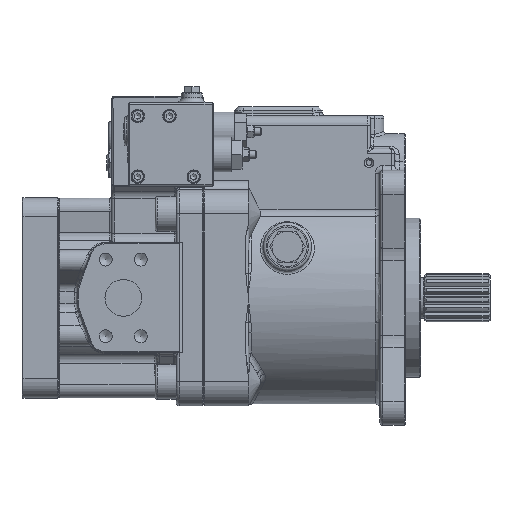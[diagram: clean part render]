
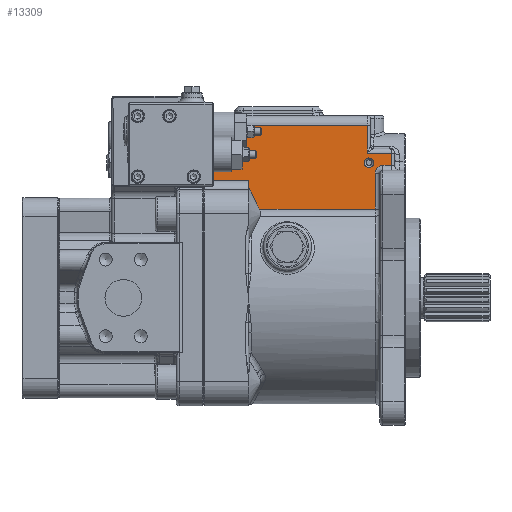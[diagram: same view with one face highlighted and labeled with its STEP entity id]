
A CAD part, left-side view. The second image highlights one B-rep face of the part: STEP entity #13309.
In plain terms, the highlighted planar face has unit normal (-1, 0, 0).
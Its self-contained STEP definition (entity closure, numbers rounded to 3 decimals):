
#10352=CARTESIAN_POINT('',(-67.0,211.0,122.0));
#10353=VERTEX_POINT('',#10352);
#10378=CARTESIAN_POINT('',(-67.0,165.0,122.0));
#10379=VERTEX_POINT('',#10378);
#10387=CARTESIAN_POINT('',(-67.0,211.0,122.0));
#10388=DIRECTION('',(0.0,-1.0,0.0));
#10389=VECTOR('',#10388,46.0);
#10390=LINE('',#10387,#10389);
#10391=EDGE_CURVE('',#10353,#10379,#10390,.T.);
#10465=CARTESIAN_POINT('',(-67.0,165.0,114.));
#10466=VERTEX_POINT('',#10465);
#10473=CARTESIAN_POINT('',(-67.0,165.0,114.));
#10474=DIRECTION('',(0.0,0.0,1.0));
#10475=VECTOR('',#10474,8.);
#10476=LINE('',#10473,#10475);
#10477=EDGE_CURVE('',#10466,#10379,#10476,.T.);
#11091=CARTESIAN_POINT('',(-67.,34.,92.038));
#11092=VERTEX_POINT('',#11091);
#11102=CARTESIAN_POINT('',(-67.,154.426,92.038));
#11103=VERTEX_POINT('',#11102);
#11104=CARTESIAN_POINT('',(-67.,154.426,92.038));
#11105=DIRECTION('',(0.0,-1.0,0.0));
#11106=VECTOR('',#11105,120.426);
#11107=LINE('',#11104,#11106);
#11108=EDGE_CURVE('',#11103,#11092,#11107,.T.);
#11701=CARTESIAN_POINT('',(-67.,211.0,179.0));
#11702=VERTEX_POINT('',#11701);
#11703=CARTESIAN_POINT('',(-67.0,211.0,122.0));
#11704=DIRECTION('',(0.0,0.0,1.0));
#11705=VECTOR('',#11704,57.0);
#11706=LINE('',#11703,#11705);
#11707=EDGE_CURVE('',#10353,#11702,#11706,.T.);
#13226=CARTESIAN_POINT('',(-67.0,215.0,122.0));
#13227=DIRECTION('',(-1.0,0.0,0.0));
#13228=DIRECTION('',(0.0,0.0,1.0));
#13229=AXIS2_PLACEMENT_3D('',#13226,#13227,#13228);
#13230=PLANE('',#13229);
#13231=CARTESIAN_POINT('',(-67.,42.,179.0));
#13232=VERTEX_POINT('',#13231);
#13233=CARTESIAN_POINT('',(-67.,42.,150.0));
#13234=VERTEX_POINT('',#13233);
#13235=CARTESIAN_POINT('',(-67.,42.,179.0));
#13236=DIRECTION('',(0.0,0.0,-1.0));
#13237=VECTOR('',#13236,29.0);
#13238=LINE('',#13235,#13237);
#13239=EDGE_CURVE('',#13232,#13234,#13238,.T.);
#13240=ORIENTED_EDGE('',*,*,#13239,.F.);
#13241=CARTESIAN_POINT('',(-67.,211.0,179.0));
#13242=DIRECTION('',(0.0,-1.0,0.0));
#13243=VECTOR('',#13242,169.);
#13244=LINE('',#13241,#13243);
#13245=EDGE_CURVE('',#11702,#13232,#13244,.T.);
#13246=ORIENTED_EDGE('',*,*,#13245,.F.);
#13247=ORIENTED_EDGE('',*,*,#11707,.F.);
#13248=ORIENTED_EDGE('',*,*,#10391,.T.);
#13249=ORIENTED_EDGE('',*,*,#10477,.F.);
#13250=CARTESIAN_POINT('',(-67.,165.0,114.));
#13251=DIRECTION('',(0.,-0.434,-0.901));
#13252=VECTOR('',#13251,24.375);
#13253=LINE('',#13250,#13252);
#13254=EDGE_CURVE('',#10466,#11103,#13253,.T.);
#13255=ORIENTED_EDGE('',*,*,#13254,.T.);
#13256=ORIENTED_EDGE('',*,*,#11108,.T.);
#13257=CARTESIAN_POINT('',(-67.0,34.0,129.25));
#13258=VERTEX_POINT('',#13257);
#13259=CARTESIAN_POINT('',(-67.0,34.,129.25));
#13260=DIRECTION('',(0.0,0.0,-1.0));
#13261=VECTOR('',#13260,37.212);
#13262=LINE('',#13259,#13261);
#13263=EDGE_CURVE('',#13258,#11092,#13262,.T.);
#13264=ORIENTED_EDGE('',*,*,#13263,.F.);
#13265=CARTESIAN_POINT('',(-67.0,26.,137.25));
#13266=VERTEX_POINT('',#13265);
#13267=CARTESIAN_POINT('',(-67.0,26.,129.25));
#13268=DIRECTION('',(-1.0,0.,0.));
#13269=DIRECTION('',(0.,0.707,0.707));
#13270=AXIS2_PLACEMENT_3D('',#13267,#13268,#13269);
#13271=CIRCLE('',#13270,8.0);
#13272=EDGE_CURVE('',#13266,#13258,#13271,.T.);
#13273=ORIENTED_EDGE('',*,*,#13272,.F.);
#13274=CARTESIAN_POINT('',(-67.0,17.,137.25));
#13275=VERTEX_POINT('',#13274);
#13276=CARTESIAN_POINT('',(-67.0,17.0,137.25));
#13277=DIRECTION('',(0.0,1.0,0.0));
#13278=VECTOR('',#13277,9.);
#13279=LINE('',#13276,#13278);
#13280=EDGE_CURVE('',#13275,#13266,#13279,.T.);
#13281=ORIENTED_EDGE('',*,*,#13280,.F.);
#13282=CARTESIAN_POINT('',(-67.0,17.,150.0));
#13283=VERTEX_POINT('',#13282);
#13284=CARTESIAN_POINT('',(-67.,17.,150.0));
#13285=DIRECTION('',(0.0,0.0,-1.0));
#13286=VECTOR('',#13285,12.75);
#13287=LINE('',#13284,#13286);
#13288=EDGE_CURVE('',#13283,#13275,#13287,.T.);
#13289=ORIENTED_EDGE('',*,*,#13288,.F.);
#13290=CARTESIAN_POINT('',(-67.,17.0,150.0));
#13291=DIRECTION('',(0.0,1.0,0.0));
#13292=VECTOR('',#13291,25.);
#13293=LINE('',#13290,#13292);
#13294=EDGE_CURVE('',#13283,#13234,#13293,.T.);
#13295=ORIENTED_EDGE('',*,*,#13294,.T.);
#13296=EDGE_LOOP('',(#13240,#13246,#13247,#13248,#13249,#13255,#13256,#13264,#13273,#13281,#13289,#13295));
#13297=FACE_OUTER_BOUND('',#13296,.T.);
#13298=CARTESIAN_POINT('',(-67.0,40.5,145.));
#13299=VERTEX_POINT('',#13298);
#13300=CARTESIAN_POINT('',(-67.0,40.5,140.));
#13301=DIRECTION('',(1.0,0.0,0.0));
#13302=DIRECTION('',(0.0,0.0,1.0));
#13303=AXIS2_PLACEMENT_3D('',#13300,#13301,#13302);
#13304=CIRCLE('',#13303,5.);
#13305=EDGE_CURVE('',#13299,#13299,#13304,.T.);
#13306=ORIENTED_EDGE('',*,*,#13305,.T.);
#13307=EDGE_LOOP('',(#13306));
#13308=FACE_BOUND('',#13307,.T.);
#13309=ADVANCED_FACE('',(#13297,#13308),#13230,.T.);
